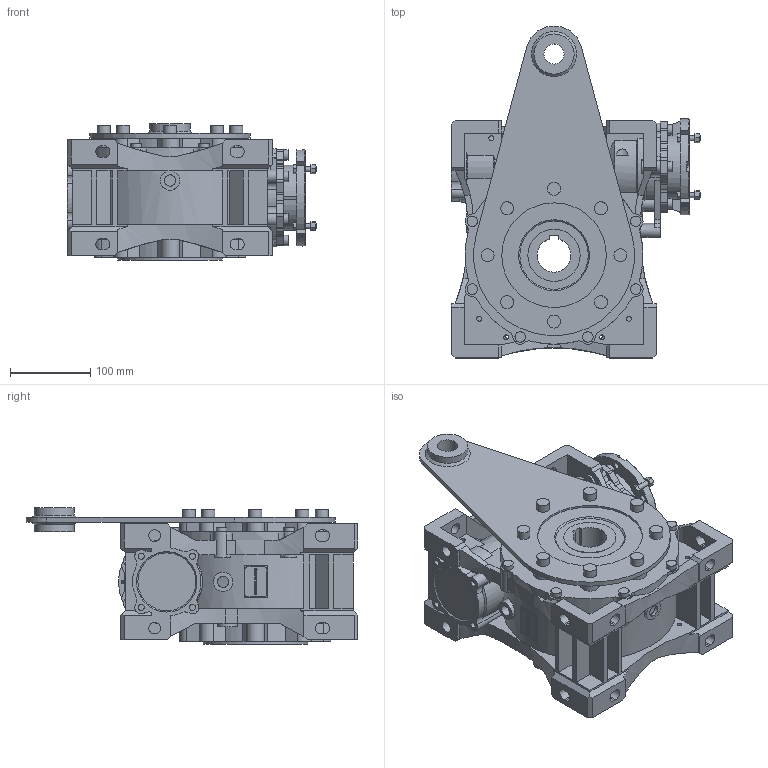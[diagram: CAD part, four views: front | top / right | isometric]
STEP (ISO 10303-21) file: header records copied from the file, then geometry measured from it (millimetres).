
FILE_DESCRIPTION(/* description */ ('STEP AP203'),/* implementation_level */ '2;1');
FILE_NAME(/* name */ 'NMRVP_110_120x19_42_NO_NO_-_-_NO_-_D_5_NO_NO_-_---_---------------',/* time_stamp */ '2025-12-03T05:36:44+01:00',/* author */ ('License CC BY-ND 4.0'),/* organization */ ('CADENAS'),/* preprocessor_version */ 'ST-DEVELOPER v20',/* originating_system */ 'PARTsolutions',/* authorisation */ ' ');
FILE_SCHEMA (('CONFIG_CONTROL_DESIGN'));
Length unit declared in the file: millimetre
Products named in the file (7): NMRVP 110 120x19 42 NO NO - - NO - D 5 NO NO - ---(---------------); W.110.01.M; 110-42 (155); W.110.14.19.M-p; 11080 B14; 110-65; 110-250-p
Assembly tree (6 placements, depth 2):
  NMRVP 110 120x19 42 NO NO - - NO - D 5 NO NO - ---(---------------)
    W.110.01.M
    110-42 (155)
    W.110.14.19.M-p
    11080 B14
    110-65
    110-250-p
Bounding box: 309.6 x 412.37 x 169.5 mm (x, y, z)
Volume: 7744998.9 mm3; surface area: 760969.3 mm2
Topology: 6 solids, 10 shells, 1511 faces, 4063 edges, 2685 vertices
Faces by surface type: plane 776, cylinder 644, cone 87, torus 4
Full cylindrical faces by diameter (mm): 6 x18, 7.45 x12, 8.376 x16, 13 x14, 14 x8, 14.5 x2, 16 x8, 24 x2, 25 x1, 39 x1, 41 x1, 50 x2, 55 x1, 56 x1, 63 x1, 65 x3, 72.5 x1, 80 x1, 90 x3, 130 x3
Entity records: 47058 total; most frequent: CARTESIAN_POINT 8870, DIRECTION 8063, ORIENTED_EDGE 7712, EDGE_CURVE 3856, AXIS2_PLACEMENT_3D 2916, VERTEX_POINT 2647, LINE 2231, VECTOR 2231
